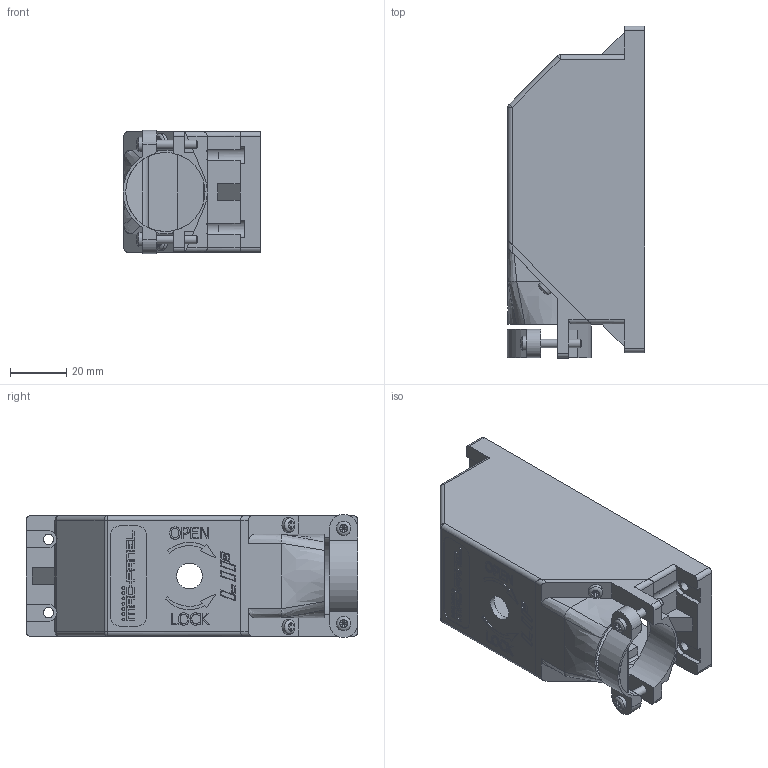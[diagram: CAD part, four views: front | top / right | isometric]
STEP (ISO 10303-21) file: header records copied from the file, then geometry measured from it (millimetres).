
FILE_DESCRIPTION(/* description */ (''),/* implementation_level */ '2;1');
FILE_NAME(/* name */ 'C:\CAD\CAD COMPLETE\web site project\LIF\LIF-0260-HMRevC-STP.stp',/* time_stamp */ '2014-01-30T15:02:52+00:00',/* author */ ('davecooper'),/* organization */ (''),/* preprocessor_version */ 'ST-DEVELOPER v15.2',/* originating_system */ 'Autodesk Inventor 2014',/* authorisation */ '');
FILE_SCHEMA (('AUTOMOTIVE_DESIGN { 1 0 10303 214 3 1 1 }'));
Length unit declared in the file: inch
Products named in the file (6): LIF-0260-HM_BODY; LIF-0260-HM_HOOD; LIF-0260-HM_SCREW_SHORT; LIF-0260-HM_CLAMP; LIF-0260-HM_SCREW_LONG; LIF-0260-HM
Bounding box: 48.9 x 117.67 x 43.72 mm (x, y, z)
Volume: 35419.5 mm3; surface area: 38517.5 mm2
Topology: 7 solids, 7 shells, 728 faces, 1843 edges, 1174 vertices
Faces by surface type: plane 509, cylinder 138, bspline 61, sphere 10, torus 6, cone 4
Full cylindrical faces by diameter (mm): 1.033 x7, 2.464 x4, 3 x4, 3.086 x2, 3.607 x2, 3.619 x4, 3.632 x2, 5.08 x4, 5.27 x4, 9.144 x1, 28.011 x1
Entity records: 20658 total; most frequent: CARTESIAN_POINT 4598, ORIENTED_EDGE 3312, DIRECTION 3044, EDGE_CURVE 1656, LINE 1208, VECTOR 1208, VERTEX_POINT 1092, AXIS2_PLACEMENT_3D 918
